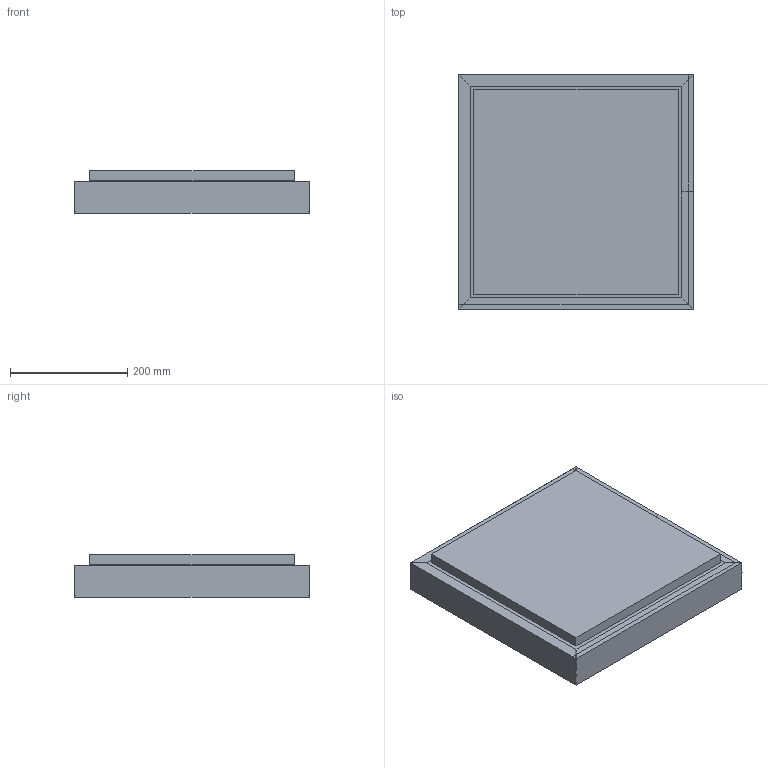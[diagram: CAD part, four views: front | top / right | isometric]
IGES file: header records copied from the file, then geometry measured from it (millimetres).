
Global section: file name: C:\Users\EQUIPO\Desktop\COLECCIONES ACB MODELADAS 3D OK\MUNICH\munich3759-40-led (IGES).igs; native system: Rhinoceros ( Oct  8 2013 ); preprocessor: Trout Lake IGES 012 Oct  8 2013; date: 190207.110732; units: millimetre
Bounding box: 400 x 400 x 73.12 mm (x, y, z)
Surface area: 779968.5 mm2 (no closed solid volume)
Topology: 0 solids, 0 shells, 24 faces, 218 edges, 218 vertices
Faces by surface type: bspline 24
